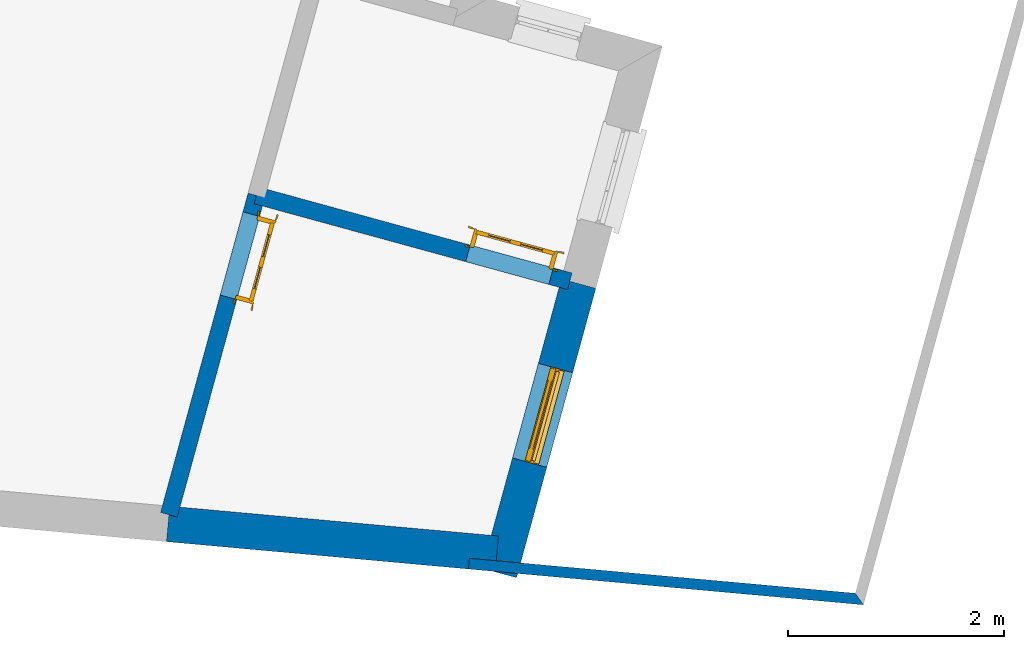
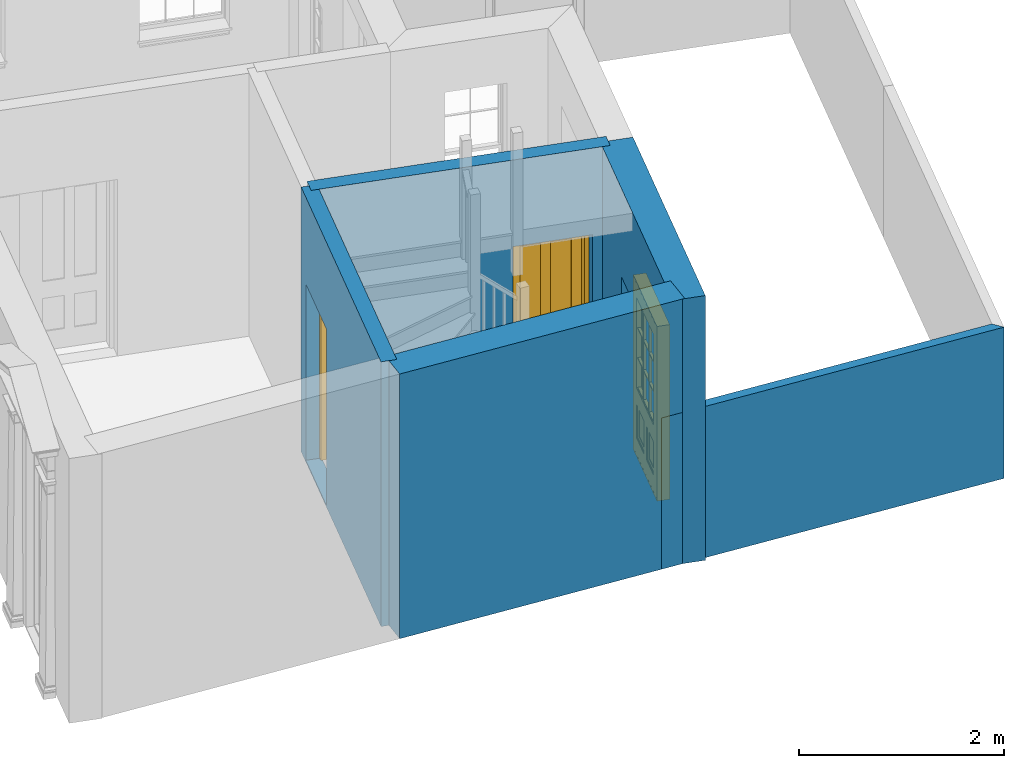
# One storey, part 3 of 8: 5 walls, 3 doors, 3 openings.
"""IFC4 building model written with IfcOpenShell, lengths in metres."""

from ifc_helpers import new_model, si_unit, frame, origin, origin_with_axes, place, context, subcontext, project, spatial, polyline, outline, extrude, faceted_brep, source, transform, mapped, material, layer, layer_set, layer_usage, type_object, type_shapes, element, fill, save


model = new_model("IFC4")

# Units and contexts
model_context = context("Model", 3, world=origin_with_axes())
body_context = subcontext(model_context, "Body", "Model", "MODEL_VIEW")
ifc_project = project(units=[si_unit("PLANEANGLEUNIT", "RADIAN"), si_unit("MASSUNIT", "GRAM", prefix="KILO"), si_unit("FORCEUNIT", "NEWTON", prefix="KILO"), si_unit("LENGTHUNIT", "METRE"), si_unit("AREAUNIT", "SQUARE_METRE"), si_unit("VOLUMEUNIT", "CUBIC_METRE")], contexts=[model_context, model_context])

# Sites, building, storey
site_1_placement = place(None, origin_with_axes())
site_1 = spatial("IfcSite", under=ifc_project, at=site_1_placement, Name="Tamar")
site_2_placement = place(site_1_placement, origin_with_axes())
site_2 = spatial("IfcSite", under=site_1, at=site_2_placement, Name="Site plot-28", CompositionType="ELEMENT")
building_placement = place(None, origin_with_axes())
building = spatial("IfcBuilding", under=site_2, at=building_placement, Name="Building plot-28", CompositionType="ELEMENT")
storey_placement = place(None, frame((0.0, 0.0, 24.0), z_axis=(0.0, 0.0, 1.0), x_axis=(1.0, 0.0, 0.0)))
storey = spatial("IfcBuildingStorey", under=building, at=storey_placement, Name="plot-28 0", CompositionType="ELEMENT", Elevation=24.0)

# Wall, opening, door
ifc_material_1 = material(Name="Masonry")
ifc_layer_1 = layer(ifc_material_1, 0.33, ventilated=False)
ifc_layer_set_1 = layer_set([ifc_layer_1], Name="exterior_0.08_0.25")
ifc_layer_usage_1 = layer_usage(ifc_layer_set_1, "AXIS2", "POSITIVE", -0.25)
wall_type_1 = type_object("IfcWallType", Name="exterior_0.08_0.25", PredefinedType="SOLIDWALL", material=ifc_layer_set_1)
wall_1_placement = place(storey_placement, frame((265.361027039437, 259.109868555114, 0.0), z_axis=(0.0, 0.0, 1.0), x_axis=(0.264255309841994, 0.964452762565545, 0.0)))
wall_1 = element("IfcWall", 1, at=wall_1_placement, inside=storey, type_object=wall_type_1, material=ifc_layer_usage_1, Name="exterior", context=body_context, shape_type="SweptSolid", body=[
    extrude(outline(polyline([(-0.250000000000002, 0.0799999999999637), (-0.24999999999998, -0.250000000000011), (2.53220610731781, -0.249999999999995), (2.53220610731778, 0.0799999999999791), (-0.250000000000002, 0.0799999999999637)])), origin_with_axes(), (0.0, 0.0, 1.0), 3.15),
])
opening_1_placement = place(wall_1_placement, frame((0.811103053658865, 0.0, 0.0199999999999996)))
opening_1 = element("IfcOpeningElement", 2, at=opening_1_placement, cuts=wall_1, Name="My Opening", ObjectType="Opening", context=body_context, shape_type="SweptSolid", body=[
    extrude(outline(polyline([(0.0, -0.270000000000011), (0.910000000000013, -0.269999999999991), (0.910000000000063, 1.09999999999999), (4.91828799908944e-14, 1.09999999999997), (0.0, -0.270000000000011)])), origin_with_axes(), (0.0, 0.0, 1.0), 2.08),
])
door_type_1 = type_object("IfcDoorType", Name="door_panelled", OperationType="SINGLE_SWING_LEFT", PredefinedType="NOTDEFINED")
shared_shape_1 = source(origin(), body_context, "Body", "Brep", [
    faceted_brep([(0.545, 0.195, 0.265), (0.745, 0.195, 0.265), (0.745, 0.2, 0.265), (0.545, 0.2, 0.265), (0.745, 0.2, 0.58), (0.545, 0.2, 0.58), (0.545, 0.195, 0.58), (0.515, 0.19, 0.235), (0.775, 0.19, 0.235), (0.745, 0.195, 0.58), (0.515, 0.19, 0.61), (0.515, 0.185, 0.235), (0.775, 0.185, 0.235), (0.775, 0.19, 0.61), (0.515, 0.185, 0.61), (0.785, 0.185, 0.225), (0.505, 0.185, 0.225), (0.775, 0.185, 0.61), (0.505, 0.185, 0.62), (0.785, 0.185, 0.62), (0.505, 0.18, 0.225), (0.785, 0.18, 0.225), (0.505, 0.18, 0.62), (0.785, 0.18, 0.62), (0.883, 0.18, 0.075), (0.898, 0.18, 0.075), (0.405, 0.18, 0.62), (0.405, 0.18, 0.225), (0.027, 0.18, 0.075), (0.785, 0.18, 0.82), (0.125, 0.18, 0.82), (0.405, 0.185, 0.62), (0.405, 0.185, 0.225), (0.898, 0.18, 2.068), (0.027, 0.17, 0.075), (0.883, 0.17, 0.075), (0.125, 0.18, 0.225), (0.012, 0.18, 0.075), (0.785, 0.19, 0.82), (0.125, 0.19, 0.82), (0.125, 0.18, 0.62), (0.125, 0.185, 0.62), (0.395, 0.185, 0.61), (0.395, 0.185, 0.235), (0.125, 0.185, 0.225), (0.785, 0.18, 1.895), (0.027, 0.14, 0.045), (0.883, 0.14, 0.045), (0.558333, 0.19, 0.83), (0.351667, 0.19, 0.83), (0.125, 0.18, 1.895), (0.125, 0.19, 1.895), (0.785, 0.19, 1.895), (0.012, 0.18, 2.068), (0.135, 0.185, 0.61), (0.395, 0.19, 0.61), (0.395, 0.19, 0.235), (0.135, 0.185, 0.235), (0.027, 0.14, 0.027), (0.883, 0.14, 0.027), (0.568333, 0.19, 0.83), (0.558333, 0.22, 0.83), (0.351667, 0.22, 0.83), (0.341667, 0.19, 0.83), (0.135, 0.19, 1.185), (0.135, 0.19, 1.53), (0.775, 0.19, 1.53), (0.775, 0.19, 1.185), (0.135, 0.19, 0.61), (0.365, 0.195, 0.58), (0.365, 0.195, 0.265), (0.135, 0.19, 0.235), (0.568333, 0.19, 1.175), (0.558333, 0.19, 1.175), (0.775, 0.19, 0.83), (0.558333, 0.22, 1.175), (0.785, 0.22, 0.82), (0.125, 0.22, 0.82), (0.351667, 0.22, 1.175), (0.351667, 0.19, 1.175), (0.341667, 0.19, 1.175), (0.135, 0.19, 0.83), (0.135, 0.19, 1.175), (0.135, 0.22, 1.185), (0.135, 0.22, 1.53), (0.135, 0.19, 1.54), (0.351667, 0.19, 1.885), (0.558333, 0.19, 1.885), (0.775, 0.22, 1.53), (0.775, 0.22, 1.185), (0.775, 0.19, 1.175), (0.775, 0.19, 1.54), (0.165, 0.195, 0.58), (0.365, 0.2, 0.58), (0.365, 0.2, 0.265), (0.165, 0.195, 0.265), (0.568333, 0.22, 0.83), (0.568333, 0.22, 1.175), (0.568333, 0.19, 1.185), (0.558333, 0.19, 1.185), (0.775, 0.22, 0.83), (0.785, 0.23, 0.82), (0.125, 0.23, 0.82), (0.341667, 0.22, 0.83), (0.341667, 0.22, 1.175), (0.351667, 0.19, 1.185), (0.341667, 0.19, 1.185), (0.135, 0.22, 0.83), (0.341667, 0.22, 1.185), (0.125, 0.22, 1.895), (0.341667, 0.22, 1.53), (0.341667, 0.19, 1.53), (0.135, 0.19, 1.885), (0.341667, 0.19, 1.54), (0.341667, 0.19, 1.885), (0.558333, 0.22, 1.885), (0.351667, 0.22, 1.885), (0.568333, 0.19, 1.885), (0.785, 0.22, 1.895), (0.568333, 0.22, 1.185), (0.568333, 0.19, 1.53), (0.568333, 0.22, 1.53), (0.568333, 0.19, 1.54), (0.775, 0.19, 1.885), (0.165, 0.2, 0.58), (0.165, 0.2, 0.265), (0.775, 0.22, 1.175), (0.558333, 0.19, 1.53), (0.351667, 0.22, 1.185), (0.558333, 0.22, 1.185), (0.505, 0.23, 0.62), (0.405, 0.23, 0.62), (0.125, 0.23, 1.895), (0.785, 0.23, 1.895), (0.351667, 0.19, 1.53), (0.135, 0.22, 1.175), (0.135, 0.22, 1.54), (0.341667, 0.22, 1.54), (0.135, 0.22, 1.885), (0.351667, 0.19, 1.54), (0.558333, 0.22, 1.54), (0.558333, 0.19, 1.54), (0.351667, 0.22, 1.54), (0.775, 0.22, 1.54), (0.568333, 0.22, 1.54), (0.775, 0.22, 1.885), (0.558333, 0.22, 1.53), (0.405, 0.23, 0.225), (0.505, 0.23, 0.225), (0.125, 0.23, 0.62), (0.785, 0.23, 0.62), (0.012, 0.23, 2.068), (0.898, 0.23, 2.068), (0.351667, 0.22, 1.53), (0.341667, 0.22, 1.885), (0.568333, 0.22, 1.885), (0.405, 0.225, 0.225), (0.405, 0.225, 0.62), (0.505, 0.225, 0.62), (0.505, 0.225, 0.225), (0.898, 0.23, 0.027), (0.012, 0.23, 0.027), (0.125, 0.225, 0.62), (0.785, 0.225, 0.62), (0.395, 0.225, 0.235), (0.395, 0.225, 0.61), (0.125, 0.23, 0.225), (0.125, 0.225, 0.225), (0.515, 0.225, 0.61), (0.515, 0.225, 0.235), (0.785, 0.23, 0.225), (0.785, 0.225, 0.225), (0.135, 0.225, 0.61), (0.775, 0.225, 0.61), (0.135, 0.225, 0.235), (0.395, 0.22, 0.235), (0.395, 0.22, 0.61), (0.515, 0.22, 0.61), (0.515, 0.22, 0.235), (0.775, 0.225, 0.235), (0.135, 0.22, 0.61), (0.775, 0.22, 0.61), (0.135, 0.22, 0.235), (0.365, 0.215, 0.265), (0.365, 0.215, 0.58), (0.545, 0.215, 0.58), (0.545, 0.215, 0.265), (0.775, 0.22, 0.235), (0.165, 0.215, 0.58), (0.745, 0.215, 0.58), (0.165, 0.215, 0.265), (0.365, 0.21, 0.58), (0.365, 0.21, 0.265), (0.545, 0.21, 0.58), (0.545, 0.21, 0.265), (0.745, 0.215, 0.265), (0.165, 0.21, 0.58), (0.745, 0.21, 0.58), (0.165, 0.21, 0.265), (0.745, 0.21, 0.265), (0.885, 0.178, 0.025), (0.025, 0.178, 0.025), (0.025, 0.15, 0.025), (0.885, 0.15, 0.025), (0.9, 0.23, 0.025), (0.01, 0.23, 0.025), (0.9, 0.178, 0.025), (0.91, 0.23, 0.0), (0.0, 0.23, 0.0), (0.01, 0.178, 0.025), (0.9, 0.178, 2.07), (0.9, 0.23, 2.07), (0.885, 0.178, 2.055), (0.91, 0.23, 2.08), (0.01, 0.23, 2.07), (0.0, 0.23, 2.08), (0.01, 0.178, 2.07), (0.025, 0.178, 2.055), (0.0, 0.1, 2.08), (0.91, 0.1, 2.08), (0.01, 0.1, 2.07), (0.9, 0.1, 2.07), (0.01, 0.15, 2.07), (0.9, 0.15, 2.07), (0.0, 0.1, 0.0), (0.91, 0.1, 0.0), (0.01, 0.1, 0.025), (0.9, 0.1, 0.025), (0.01, 0.15, 0.025), (0.025, 0.15, 2.055), (0.9, 0.15, 0.025), (0.885, 0.15, 2.055), (0.898, 0.18, 0.027), (0.012, 0.18, 0.027), (0.883, 0.18, 0.027), (0.027, 0.18, 0.027)], [[[0, 1, 2, 3]], [[2, 4, 5, 3]], [[0, 3, 5, 6]], [[1, 0, 7, 8]], [[9, 4, 2, 1]], [[9, 6, 5, 4]], [[0, 6, 10, 7]], [[8, 7, 11, 12]], [[8, 13, 9, 1]], [[13, 10, 6, 9]], [[7, 10, 14, 11]], [[15, 12, 11, 16]], [[12, 17, 13, 8]], [[17, 14, 10, 13]], [[18, 16, 11, 14]], [[15, 19, 17, 12]], [[15, 16, 20, 21]], [[14, 17, 19, 18]], [[16, 18, 22, 20]], [[21, 23, 19, 15]], [[24, 25, 21, 20]], [[23, 22, 18, 19]], [[20, 22, 26, 27]], [[23, 21, 25]], [[28, 24, 20, 27]], [[22, 23, 29]], [[29, 30, 26, 22]], [[27, 26, 31, 32]], [[23, 25, 33, 29]], [[34, 35, 24, 28]], [[28, 27, 36, 37]], [[38, 39, 30, 29]], [[26, 30, 40]], [[26, 40, 41, 31]], [[42, 43, 32, 31]], [[32, 44, 36, 27]], [[33, 45, 29]], [[46, 47, 35, 34]], [[36, 40, 37]], [[39, 38, 48, 49]], [[50, 30, 39, 51]], [[29, 45, 52, 38]], [[53, 37, 40, 30]], [[44, 41, 40, 36]], [[31, 41, 54, 42]], [[43, 42, 55, 56]], [[57, 44, 32, 43]], [[50, 45, 33, 53]], [[47, 46, 58, 59]], [[60, 48, 38]], [[49, 48, 61, 62]], [[49, 63, 39]], [[50, 53, 30]], [[51, 39, 64, 65]], [[45, 50, 51, 52]], [[66, 67, 38, 52]], [[57, 54, 41, 44]], [[42, 54, 68, 55]], [[56, 55, 69, 70]], [[56, 71, 57, 43]], [[60, 72, 73, 48]], [[60, 38, 74]], [[48, 73, 75, 61]], [[76, 77, 62, 61]], [[62, 78, 79, 49]], [[49, 79, 80, 63]], [[63, 81, 39]], [[82, 64, 39]], [[65, 64, 83, 84]], [[85, 51, 65]], [[52, 51, 86, 87]], [[88, 89, 67, 66]], [[90, 38, 67]], [[91, 66, 52]], [[71, 68, 54, 57]], [[55, 68, 92, 69]], [[69, 93, 94, 70]], [[70, 95, 71, 56]], [[96, 97, 72, 60]], [[73, 72, 98, 99]], [[74, 38, 90]], [[100, 96, 60, 74]], [[75, 73, 79, 78]], [[61, 75, 97, 96]], [[101, 102, 77, 76]], [[77, 103, 62]], [[96, 76, 61]], [[103, 104, 78, 62]], [[80, 79, 105, 106]], [[63, 80, 104, 103]], [[81, 63, 103, 107]], [[81, 82, 39]], [[106, 64, 82, 80]], [[106, 108, 83, 64]], [[84, 83, 77, 109]], [[110, 111, 65, 84]], [[112, 51, 85]], [[113, 85, 65, 111]], [[114, 86, 51]], [[115, 87, 86, 116]], [[117, 52, 87]], [[118, 76, 89, 88]], [[119, 98, 67, 89]], [[120, 121, 88, 66]], [[67, 98, 72, 90]], [[91, 122, 120, 66]], [[91, 52, 123]], [[95, 92, 68, 71]], [[69, 92, 124, 93]], [[94, 93, 124, 125]], [[94, 125, 95, 70]], [[72, 97, 126, 90]], [[127, 99, 98, 120]], [[99, 105, 79, 73]], [[74, 90, 126, 100]], [[96, 100, 76]], [[128, 129, 75, 78]], [[97, 75, 129, 119]], [[130, 131, 102, 101]], [[109, 77, 102, 132]], [[133, 101, 76, 118]], [[77, 107, 103]], [[78, 104, 108, 128]], [[111, 106, 105, 134]], [[104, 80, 82, 135]], [[107, 135, 82, 81]], [[110, 108, 106, 111]], [[104, 135, 83, 108]], [[83, 135, 77]], [[136, 84, 109]], [[110, 84, 136, 137]], [[114, 51, 112]], [[85, 136, 138, 112]], [[113, 137, 136, 85]], [[111, 134, 139, 113]], [[86, 114, 113, 139]], [[140, 141, 87, 115]], [[139, 142, 116, 86]], [[109, 118, 115, 116]], [[117, 123, 52]], [[117, 87, 141, 122]], [[126, 89, 76]], [[143, 118, 88]], [[120, 98, 119, 121]], [[119, 89, 126, 97]], [[144, 143, 88, 121]], [[144, 122, 91, 143]], [[127, 120, 122, 141]], [[143, 91, 123, 145]], [[124, 92, 95, 125]], [[146, 129, 99, 127]], [[99, 129, 128, 105]], [[100, 126, 76]], [[121, 119, 129, 146]], [[147, 131, 130, 148]], [[131, 149, 102]], [[130, 101, 150]], [[102, 151, 132]], [[118, 109, 132, 133]], [[101, 133, 152]], [[107, 77, 135]], [[153, 128, 108, 110]], [[134, 105, 128, 153]], [[109, 138, 136]], [[153, 110, 137, 142]], [[154, 114, 112, 138]], [[137, 113, 114, 154]], [[141, 139, 134, 127]], [[141, 140, 142, 139]], [[144, 140, 115, 155]], [[142, 137, 154, 116]], [[155, 115, 118]], [[116, 154, 109]], [[117, 155, 145, 123]], [[122, 144, 155, 117]], [[143, 145, 118]], [[121, 146, 140, 144]], [[146, 127, 134, 153]], [[156, 157, 131, 147]], [[148, 130, 158, 159]], [[148, 160, 161, 147]], [[157, 162, 149, 131]], [[161, 151, 102, 149]], [[101, 152, 160, 150]], [[163, 158, 130, 150]], [[151, 152, 133, 132]], [[154, 138, 109]], [[142, 140, 146, 153]], [[145, 155, 118]], [[157, 156, 164, 165]], [[147, 166, 167, 156]], [[168, 169, 159, 158]], [[170, 148, 159, 171]], [[148, 170, 160]], [[166, 147, 161]], [[172, 162, 157, 165]], [[166, 149, 162, 167]], [[166, 161, 149]], [[150, 160, 170]], [[163, 173, 168, 158]], [[171, 163, 150, 170]], [[174, 164, 156, 167]], [[175, 176, 165, 164]], [[169, 168, 177, 178]], [[171, 159, 169, 179]], [[167, 162, 172, 174]], [[176, 180, 172, 165]], [[179, 173, 163, 171]], [[181, 177, 168, 173]], [[164, 174, 182, 175]], [[183, 184, 176, 175]], [[178, 177, 185, 186]], [[179, 169, 178, 187]], [[174, 172, 180, 182]], [[184, 188, 180, 176]], [[187, 181, 173, 179]], [[189, 185, 177, 181]], [[175, 182, 190, 183]], [[191, 184, 183, 192]], [[185, 193, 194, 186]], [[187, 178, 186, 195]], [[182, 180, 188, 190]], [[191, 196, 188, 184]], [[195, 189, 181, 187]], [[197, 193, 185, 189]], [[183, 190, 198, 192]], [[198, 196, 191, 192]], [[194, 193, 197, 199]], [[195, 186, 194, 199]], [[188, 196, 198, 190]], [[197, 189, 195, 199]], [[200, 201, 202, 203]], [[201, 200, 204, 205]], [[206, 204, 200]], [[204, 207, 208, 205]], [[209, 201, 205]], [[210, 211, 204, 206]], [[206, 200, 212, 210]], [[211, 213, 207, 204]], [[214, 205, 208, 215]], [[216, 217, 201, 209]], [[205, 214, 216, 209]], [[216, 214, 211, 210]], [[210, 212, 217, 216]], [[214, 215, 213, 211]], [[218, 219, 213, 215]], [[219, 218, 220, 221]], [[221, 220, 222, 223]], [[215, 208, 224, 218]], [[225, 224, 208, 207]], [[224, 226, 220, 218]], [[224, 225, 227, 226]], [[219, 225, 207, 213]], [[228, 222, 220, 226]], [[219, 221, 227, 225]], [[226, 227, 203, 202]], [[202, 229, 222, 228]], [[228, 226, 202]], [[227, 221, 223, 230]], [[230, 203, 227]], [[217, 229, 202, 201]], [[231, 223, 222, 229]], [[230, 223, 231, 203]], [[231, 229, 217, 212]], [[212, 200, 203, 231]], [[33, 152, 151, 53]], [[25, 160, 152, 33]], [[161, 37, 53, 151]], [[232, 160, 25]], [[161, 233, 37]], [[160, 232, 234]], [[24, 234, 232, 25]], [[233, 161, 235]], [[37, 233, 235, 28]], [[161, 160, 234, 235]], [[35, 47, 234, 24]], [[28, 235, 46, 34]], [[58, 235, 234, 59]], [[59, 234, 47]], [[58, 46, 235]]]),
])
type_shapes(door_type_1, [shared_shape_1])
door_1_placement = place(storey_placement, frame((265.835767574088, 259.820790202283, 0.0199999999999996), z_axis=(0.0, 0.0, 1.0), x_axis=(0.240472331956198, 0.877652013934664, 0.0)))
door_1 = element("IfcDoor", 3, at=door_1_placement, inside=storey, type_object=door_type_1, Name="circulation outside door", OverallHeight=2.08, OverallWidth=0.91, context=body_context, shape_type="MappedRepresentation", body=[
    mapped(shared_shape_1, transform((0.0, 0.0, 0.0), scale=1.0)),
])
fill(opening_1, door_1)

# Wall
ifc_material_2 = material(Name="Masonry")
ifc_layer_2 = layer(ifc_material_2, 0.33, ventilated=False)
ifc_layer_set_2 = layer_set([ifc_layer_2], Name="party_0.08_0.25")
ifc_layer_usage_2 = layer_usage(ifc_layer_set_2, "AXIS2", "POSITIVE", -0.25)
wall_type_2 = type_object("IfcWallType", Name="party_0.08_0.25", PredefinedType="SOLIDWALL", material=ifc_layer_set_2)
wall_2_placement = place(storey_placement, frame((262.311682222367, 259.386200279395, 0.0), z_axis=(0.0, 0.0, 1.0), x_axis=(0.995919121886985, -0.0902502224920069, 0.0)))
element("IfcWall", 4, at=wall_2_placement, inside=storey, type_object=wall_type_2, material=ifc_layer_usage_2, Name="party", context=body_context, shape_type="SweptSolid", body=[
    extrude(outline(polyline([(3.79656442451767e-14, 0.0799999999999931), (-9.35267029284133e-14, -0.250000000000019), (3.06183981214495, -0.250000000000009), (3.06183981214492, 0.079999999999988), (3.79656442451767e-14, 0.0799999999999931)])), origin_with_axes(), (0.0, 0.0, 1.0), 3.15),
])

# Wall, opening, door
ifc_material_3 = material(Name="Masonry")
ifc_layer_3 = layer(ifc_material_3, 0.16, ventilated=False)
ifc_layer_set_3 = layer_set([ifc_layer_3], Name="interior_0.08_0.08")
ifc_layer_usage_3 = layer_usage(ifc_layer_set_3, "AXIS2", "POSITIVE", -0.08)
wall_type_3 = type_object("IfcWallType", Name="interior_0.08_0.08", PredefinedType="SOLIDWALL", material=ifc_layer_set_3)
wall_3_placement = place(storey_placement, frame((263.123343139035, 262.348519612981, 0.0), z_axis=(0.0, 0.0, 1.0), x_axis=(-0.264255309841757, -0.96445276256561, 0.0)))
wall_3 = element("IfcWall", 5, at=wall_3_placement, inside=storey, type_object=wall_type_3, material=ifc_layer_usage_3, Name="interior", context=body_context, shape_type="SweptSolid", body=[
    extrude(outline(polyline([(1.28461277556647e-14, 0.0799999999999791), (-1.28914520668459e-14, -0.0799999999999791), (3.07150277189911, -0.0799999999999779), (3.07150277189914, 0.0799999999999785), (1.28461277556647e-14, 0.0799999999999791)])), origin_with_axes(), (0.0, 0.0, 1.0), 3.15),
])
opening_2_placement = place(wall_3_placement, frame((0.180000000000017, 0.0, 0.0199999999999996)))
opening_2 = element("IfcOpeningElement", 6, at=opening_2_placement, cuts=wall_3, Name="My Opening", ObjectType="Opening", context=body_context, shape_type="SweptSolid", body=[
    extrude(outline(polyline([(0.0, -0.100000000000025), (0.799999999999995, -0.100000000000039), (0.799999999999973, 1.1), (-2.19546603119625e-14, 1.10000000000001), (0.0, -0.100000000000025)])), origin_with_axes(), (0.0, 0.0, 1.0), 2.1),
])
door_type_2 = type_object("IfcDoorType", Name="door_inside", OperationType="SINGLE_SWING_LEFT", PredefinedType="NOTDEFINED")
shared_shape_2 = source(origin(), body_context, "Body", "Brep", [
    faceted_brep([(0.773, 0.33, 1.895), (0.66, 0.33, 1.895), (0.66, 0.33, 2.073), (0.773, 0.33, 2.073), (0.773, 0.33, 0.82), (0.66, 0.33, 0.82), (0.45, 0.33, 1.895), (0.45, 0.33, 2.073), (0.773, 0.33, 0.62), (0.66, 0.33, 0.62), (0.66, 0.315, 0.82), (0.66, 0.315, 1.895), (0.45, 0.315, 1.895), (0.35, 0.33, 1.895), (0.35, 0.33, 2.073), (0.773, 0.33, 0.225), (0.66, 0.33, 0.225), (0.45, 0.33, 0.62), (0.45, 0.33, 0.82), (0.45, 0.315, 0.82), (0.35, 0.33, 0.82), (0.14, 0.33, 2.073), (0.14, 0.33, 1.895), (0.773, 0.33, 0.0), (0.66, 0.33, 0.0), (0.66, 0.315, 0.225), (0.66, 0.315, 0.62), (0.45, 0.315, 0.62), (0.35, 0.33, 0.62), (0.35, 0.315, 0.82), (0.35, 0.315, 1.895), (0.14, 0.315, 1.895), (0.027, 0.33, 2.073), (0.027, 0.33, 1.895), (0.773, 0.292, 0.0), (0.66, 0.292, 0.0), (0.45, 0.33, 0.0), (0.45, 0.33, 0.225), (0.45, 0.315, 0.225), (0.35, 0.33, 0.225), (0.14, 0.33, 0.82), (0.14, 0.33, 0.62), (0.14, 0.315, 0.82), (0.027, 0.33, 0.82), (0.773, 0.292, 0.225), (0.66, 0.292, 0.225), (0.45, 0.292, 0.0), (0.35, 0.33, 0.0), (0.35, 0.315, 0.225), (0.35, 0.315, 0.62), (0.14, 0.315, 0.62), (0.027, 0.33, 0.62), (0.773, 0.292, 0.62), (0.66, 0.292, 0.62), (0.45, 0.292, 0.225), (0.35, 0.292, 0.0), (0.14, 0.33, 0.225), (0.14, 0.33, 0.0), (0.14, 0.315, 0.225), (0.027, 0.33, 0.225), (0.773, 0.292, 0.82), (0.66, 0.292, 0.82), (0.66, 0.307, 0.62), (0.66, 0.307, 0.225), (0.45, 0.307, 0.225), (0.35, 0.292, 0.225), (0.14, 0.292, 0.0), (0.027, 0.33, 0.0), (0.773, 0.292, 1.895), (0.66, 0.292, 1.895), (0.45, 0.292, 0.62), (0.45, 0.292, 0.82), (0.45, 0.307, 0.62), (0.35, 0.292, 0.62), (0.14, 0.292, 0.225), (0.027, 0.292, 0.0), (0.773, 0.292, 2.073), (0.66, 0.292, 2.073), (0.66, 0.307, 1.895), (0.66, 0.307, 0.82), (0.45, 0.307, 0.82), (0.35, 0.292, 0.82), (0.35, 0.307, 0.62), (0.35, 0.307, 0.225), (0.14, 0.307, 0.225), (0.027, 0.292, 0.225), (0.45, 0.292, 1.895), (0.45, 0.292, 2.073), (0.45, 0.307, 1.895), (0.35, 0.292, 1.895), (0.14, 0.292, 0.82), (0.14, 0.292, 0.62), (0.14, 0.307, 0.62), (0.027, 0.292, 0.62), (0.35, 0.292, 2.073), (0.35, 0.307, 1.895), (0.35, 0.307, 0.82), (0.14, 0.307, 0.82), (0.027, 0.292, 0.82), (0.14, 0.292, 2.073), (0.14, 0.292, 1.895), (0.14, 0.307, 1.895), (0.027, 0.292, 1.895), (0.027, 0.292, 2.073), (0.02, 0.335, 0.0), (0.005, 0.34, 0.0), (0.005, 0.34, 2.095), (0.02, 0.335, 2.08), (0.02, 0.33, 0.0), (0.0, 0.335, 0.0), (0.0, 0.335, 2.1), (0.795, 0.34, 2.095), (0.78, 0.335, 2.08), (0.02, 0.33, 2.08), (0.0, 0.33, 0.0), (-0.032, 0.345, 0.0), (-0.032, 0.345, 2.132), (0.8, 0.335, 2.1), (0.795, 0.34, 0.0), (0.78, 0.335, 0.0), (0.78, 0.33, 2.08), (0.04, 0.29, 0.0), (0.025, 0.29, 0.0), (0.025, 0.29, 2.075), (0.04, 0.29, 2.06), (-0.04, 0.34, 0.0), (-0.04, 0.34, 2.14), (0.832, 0.345, 2.132), (0.8, 0.335, 0.0), (0.78, 0.33, 0.0), (0.8, 0.33, 0.0), (0.86, 0.33, 0.0), (0.86, 0.33, 2.16), (0.8, 0.33, 2.1), (-0.06, 0.33, 2.16), (0.0, 0.33, 2.1), (-0.06, 0.33, 0.0), (-0.04, 0.345, 0.0), (-0.04, 0.345, 2.14), (0.84, 0.34, 2.14), (0.832, 0.345, 0.0), (0.84, 0.34, 0.0), (0.86, 0.345, 0.0), (0.86, 0.345, 2.16), (-0.06, 0.345, 2.16), (-0.06, 0.345, 0.0), (0.84, 0.345, 0.0), (0.84, 0.345, 2.14), (-0.025, 0.155, 0.0), (-0.025, 0.16, 0.0), (-0.025, 0.16, 2.125), (-0.025, 0.155, 2.125), (-0.017, 0.155, 0.0), (-0.017, 0.155, 2.117), (0.825, 0.16, 2.125), (0.825, 0.155, 2.125), (0.825, 0.155, 0.0), (0.845, 0.155, 0.0), (-0.045, 0.155, 2.145), (-0.045, 0.155, 0.0), (0.845, 0.155, 2.145), (0.015, 0.165, 0.0), (0.015, 0.165, 2.085), (0.817, 0.155, 2.117), (0.825, 0.16, 0.0), (0.845, 0.17, 0.0), (0.845, 0.17, 2.145), (-0.045, 0.17, 2.145), (-0.045, 0.17, 0.0), (0.02, 0.16, 0.0), (0.02, 0.16, 2.08), (0.785, 0.165, 2.085), (0.817, 0.155, 0.0), (0.8, 0.17, 0.0), (0.8, 0.17, 2.1), (0.0, 0.17, 2.1), (0.0, 0.17, 0.0), (0.035, 0.165, 0.0), (0.035, 0.165, 2.065), (0.78, 0.16, 2.08), (0.785, 0.165, 0.0), (0.775, 0.29, 2.075), (0.76, 0.29, 2.06), (0.035, 0.17, 2.065), (0.035, 0.17, 0.0), (0.765, 0.165, 2.065), (0.78, 0.16, 0.0), (0.765, 0.17, 0.0), (0.765, 0.17, 2.065), (0.765, 0.165, 0.0), (0.04, 0.17, 2.06), (0.04, 0.17, 0.0), (0.76, 0.17, 2.06), (0.76, 0.17, 0.0), (0.76, 0.29, 0.0), (0.775, 0.29, 0.0), (0.025, 0.33, 0.0), (0.025, 0.33, 2.075), (0.775, 0.33, 0.0), (0.775, 0.33, 2.075)], [[[0, 1, 2, 3]], [[1, 0, 4, 5]], [[1, 6, 7, 2]], [[8, 9, 5, 4]], [[1, 5, 10, 11]], [[6, 1, 11, 12]], [[6, 13, 14, 7]], [[15, 16, 9, 8]], [[9, 17, 18, 5]], [[5, 18, 19, 10]], [[10, 19, 12, 11]], [[18, 6, 12, 19]], [[18, 20, 13, 6]], [[21, 14, 13, 22]], [[23, 24, 16, 15]], [[9, 16, 25, 26]], [[17, 9, 26, 27]], [[17, 28, 20, 18]], [[13, 20, 29, 30]], [[22, 13, 30, 31]], [[32, 21, 22, 33]], [[34, 35, 24, 23]], [[24, 36, 37, 16]], [[16, 37, 38, 25]], [[25, 38, 27, 26]], [[37, 17, 27, 38]], [[37, 39, 28, 17]], [[40, 20, 28, 41]], [[20, 40, 42, 29]], [[31, 30, 29, 42]], [[40, 22, 31, 42]], [[33, 22, 40, 43]], [[35, 34, 44, 45]], [[35, 46, 36, 24]], [[36, 47, 39, 37]], [[28, 39, 48, 49]], [[41, 28, 49, 50]], [[43, 40, 41, 51]], [[45, 44, 52, 53]], [[46, 35, 45, 54]], [[46, 55, 47, 36]], [[56, 39, 47, 57]], [[39, 56, 58, 48]], [[50, 49, 48, 58]], [[56, 41, 50, 58]], [[51, 41, 56, 59]], [[53, 52, 60, 61]], [[45, 53, 62, 63]], [[54, 45, 63, 64]], [[55, 46, 54, 65]], [[55, 66, 57, 47]], [[59, 56, 57, 67]], [[61, 60, 68, 69]], [[70, 53, 61, 71]], [[53, 70, 72, 62]], [[72, 64, 63, 62]], [[70, 54, 64, 72]], [[65, 54, 70, 73]], [[65, 74, 66, 55]], [[67, 57, 66, 75]], [[69, 68, 76, 77]], [[61, 69, 78, 79]], [[71, 61, 79, 80]], [[73, 70, 71, 81]], [[65, 73, 82, 83]], [[74, 65, 83, 84]], [[74, 85, 75, 66]], [[86, 69, 77, 87]], [[69, 86, 88, 78]], [[88, 80, 79, 78]], [[86, 71, 80, 88]], [[81, 71, 86, 89]], [[73, 81, 90, 91]], [[73, 91, 92, 82]], [[83, 82, 92, 84]], [[91, 74, 84, 92]], [[91, 93, 85, 74]], [[89, 86, 87, 94]], [[81, 89, 95, 96]], [[90, 81, 96, 97]], [[90, 98, 93, 91]], [[94, 99, 100, 89]], [[89, 100, 101, 95]], [[101, 97, 96, 95]], [[100, 90, 97, 101]], [[100, 102, 98, 90]], [[99, 103, 102, 100]], [[32, 103, 99, 21]], [[102, 103, 32, 33]], [[98, 102, 33, 43]], [[21, 99, 94, 14]], [[94, 87, 7, 14]], [[7, 87, 77, 2]], [[76, 3, 2, 77]], [[43, 51, 93, 98]], [[51, 59, 85, 93]], [[67, 75, 85, 59]], [[34, 23, 15, 44]], [[44, 15, 8, 52]], [[52, 8, 4, 60]], [[0, 68, 60, 4]], [[0, 3, 76, 68]], [[104, 105, 106, 107]], [[104, 108, 109, 105]], [[105, 109, 110, 106]], [[107, 106, 111, 112]], [[107, 113, 108, 104]], [[114, 109, 108]], [[109, 115, 116, 110]], [[106, 110, 117, 111]], [[112, 111, 118, 119]], [[113, 107, 112, 120]], [[121, 122, 123, 124]], [[115, 109, 114, 125]], [[115, 125, 126, 116]], [[110, 116, 127, 117]], [[111, 117, 128, 118]], [[118, 128, 129, 119]], [[120, 112, 119, 129]], [[130, 129, 128]], [[130, 131, 132, 133]], [[133, 132, 134, 135]], [[135, 134, 136, 114]], [[136, 125, 114]], [[125, 137, 138, 126]], [[116, 126, 139, 127]], [[117, 127, 140, 128]], [[141, 130, 128, 140]], [[131, 130, 141]], [[131, 142, 143, 132]], [[132, 143, 144, 134]], [[134, 144, 145, 136]], [[137, 125, 136, 145]], [[143, 142, 146]], [[143, 146, 147]], [[137, 145, 144]], [[143, 147, 138]], [[138, 137, 144]], [[143, 138, 144]], [[126, 138, 147, 139]], [[127, 139, 141, 140]], [[142, 131, 141, 146]], [[139, 147, 146, 141]], [[148, 149, 150, 151]], [[149, 152, 153, 150]], [[151, 150, 154, 155]], [[155, 156, 157]], [[158, 159, 148]], [[158, 148, 151]], [[155, 157, 160]], [[158, 151, 155]], [[155, 160, 158]], [[152, 161, 162, 153]], [[150, 153, 163, 154]], [[155, 154, 164, 156]], [[156, 164, 165, 157]], [[157, 165, 166, 160]], [[160, 166, 167, 158]], [[158, 167, 168, 159]], [[161, 169, 170, 162]], [[153, 162, 171, 163]], [[154, 163, 172, 164]], [[165, 164, 173]], [[165, 173, 174, 166]], [[166, 174, 175, 167]], [[167, 175, 176, 168]], [[169, 177, 178, 170]], [[162, 170, 179, 171]], [[163, 171, 180, 172]], [[172, 180, 173, 164]], [[124, 123, 181, 182]], [[183, 178, 177, 184]], [[170, 178, 185, 179]], [[171, 179, 186, 180]], [[187, 173, 180]], [[185, 188, 187, 189]], [[188, 185, 178, 183]], [[179, 185, 189, 186]], [[189, 187, 180, 186]], [[190, 183, 184, 191]], [[192, 188, 183, 190]], [[191, 184, 122, 121]], [[124, 190, 191, 121]], [[193, 187, 188, 192]], [[182, 192, 190, 124]], [[184, 176, 122]], [[194, 195, 187, 193]], [[192, 182, 194, 193]], [[161, 176, 184]], [[114, 108, 122, 176]], [[173, 187, 195]], [[152, 149, 176, 161]], [[169, 161, 184, 177]], [[196, 122, 108]], [[176, 175, 135, 114]], [[173, 195, 129, 130]], [[176, 149, 168]], [[123, 122, 196, 197]], [[196, 108, 113, 197]], [[175, 174, 133, 135]], [[198, 129, 195]], [[133, 174, 173, 130]], [[159, 168, 149, 148]], [[181, 123, 197, 199]], [[197, 113, 120, 199]], [[199, 120, 129, 198]], [[195, 181, 199, 198]], [[195, 194, 182, 181]]]),
])
type_shapes(door_type_2, [shared_shape_2])
door_2_placement = place(storey_placement, frame((262.979331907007, 262.201343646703, 0.0199999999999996), z_axis=(0.0, 0.0, 1.0), x_axis=(-0.211404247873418, -0.77156221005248, 0.0)))
door_2 = element("IfcDoor", 7, at=door_2_placement, inside=storey, type_object=door_type_2, Name="living inside door", OverallHeight=2.1, OverallWidth=0.8, context=body_context, shape_type="MappedRepresentation", body=[
    mapped(shared_shape_2, transform((0.0, 0.0, 0.0), scale=1.0)),
])
fill(opening_2, door_2)

wall_4_placement = place(storey_placement, frame((263.123343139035, 262.348519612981, 0.0), z_axis=(0.0, 0.0, 1.0), x_axis=(0.964452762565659, -0.264255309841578, 0.0)))
wall_4 = element("IfcWall", 8, at=wall_4_placement, inside=storey, type_object=wall_type_3, material=ifc_layer_usage_3, Name="interior", context=body_context, shape_type="SweptSolid", body=[
    extrude(outline(polyline([(2.77338288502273e-14, 0.0799999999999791), (-2.77258624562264e-14, -0.0799999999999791), (3.01397115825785, -0.0799999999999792), (3.0139711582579, 0.079999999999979), (2.77338288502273e-14, 0.0799999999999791)])), origin_with_axes(), (0.0, 0.0, 1.0), 3.15),
])
opening_3_placement = place(wall_4_placement, frame((2.03397115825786, 0.0, 0.0199999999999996)))
opening_3 = element("IfcOpeningElement", 9, at=opening_3_placement, cuts=wall_4, Name="My Opening", ObjectType="Opening", context=body_context, shape_type="SweptSolid", body=[
    extrude(outline(polyline([(0.0, -0.100000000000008), (0.80000000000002, -0.100000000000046), (0.800000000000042, 1.1), (2.1316282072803e-14, 1.10000000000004), (0.0, -0.100000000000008)])), origin_with_axes(), (0.0, 0.0, 1.0), 2.1),
])
door_3_placement = place(storey_placement, frame((265.058586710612, 261.71458665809, 0.0199999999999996), z_axis=(0.0, 0.0, 1.0), x_axis=(0.771562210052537, -0.211404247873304, 0.0)))
door_3 = element("IfcDoor", 10, at=door_3_placement, inside=storey, type_object=door_type_2, Name="toilet inside door", OverallHeight=2.1, OverallWidth=0.8, context=body_context, shape_type="MappedRepresentation", body=[
    mapped(shared_shape_2, transform((0.0, 0.0, 0.0), scale=1.0)),
])
fill(opening_3, door_3)

# Wall
ifc_material_4 = material(Name="Masonry")
ifc_layer_4 = layer(ifc_material_4, 0.1, ventilated=False)
ifc_layer_set_4 = layer_set([ifc_layer_4], Name="fence_-0.15_0.25")
ifc_layer_usage_4 = layer_usage(ifc_layer_set_4, "AXIS2", "POSITIVE", -0.25)
wall_type_4 = type_object("IfcWallType", Name="fence_-0.15_0.25", PredefinedType="SOLIDWALL", material=ifc_layer_set_4)
wall_5_placement = place(storey_placement, frame((265.361027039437, 259.109868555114, 0.0), z_axis=(0.0, 0.0, 1.0), x_axis=(0.995919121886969, -0.0902502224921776, 0.0)))
element("IfcWall", 11, at=wall_5_placement, inside=storey, type_object=wall_type_4, material=ifc_layer_usage_4, Name="fence", context=body_context, shape_type="SweptSolid", body=[
    extrude(outline(polyline([(-0.250000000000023, -0.150000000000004), (-0.250000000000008, -0.25000000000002), (3.42864448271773, -0.250000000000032), (3.34494948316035, -0.149999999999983), (-0.250000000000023, -0.150000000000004)])), origin_with_axes(), (0.0, 0.0, 1.0), 1.8),
])

save(model, "model.ifc")
